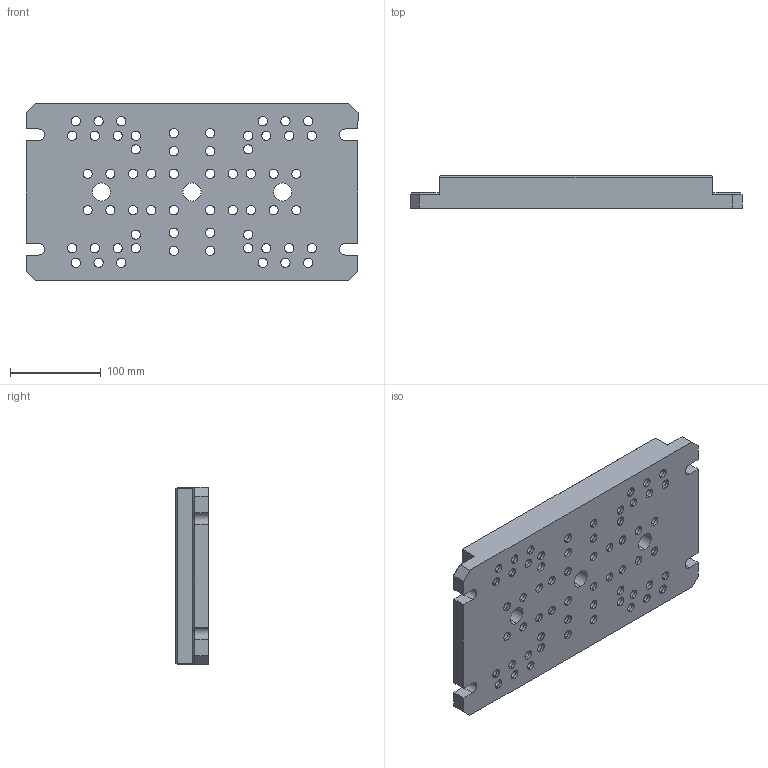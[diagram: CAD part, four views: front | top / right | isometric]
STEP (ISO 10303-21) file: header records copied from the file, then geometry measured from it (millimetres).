
FILE_DESCRIPTION (( 'STEP AP203' ), '1' );
FILE_NAME ('H1000_196_366_36.STEP', '2021-09-23T05:36:39', ( '' ), ( '' ), 'SwSTEP 2.0', 'SolidWorks 2018', '' );
FILE_SCHEMA (( 'CONFIG_CONTROL_DESIGN' ));
Length unit declared in the file: millimetre
Products named in the file (1): H1000_196_366_36
Bounding box: 366 x 36 x 196 mm (x, y, z)
Volume: 2013319 mm3; surface area: 258812.1 mm2
Topology: 1 solids, 1 shells, 610 faces, 1388 edges, 834 vertices
Faces by surface type: cylinder 370, cone 128, plane 112
Entity records: 17433 total; most frequent: DIRECTION 3350, CARTESIAN_POINT 2829, ORIENTED_EDGE 2768, EDGE_CURVE 1384, AXIS2_PLACEMENT_3D 1355, VERTEX_POINT 834, EDGE_LOOP 794, CIRCLE 744
